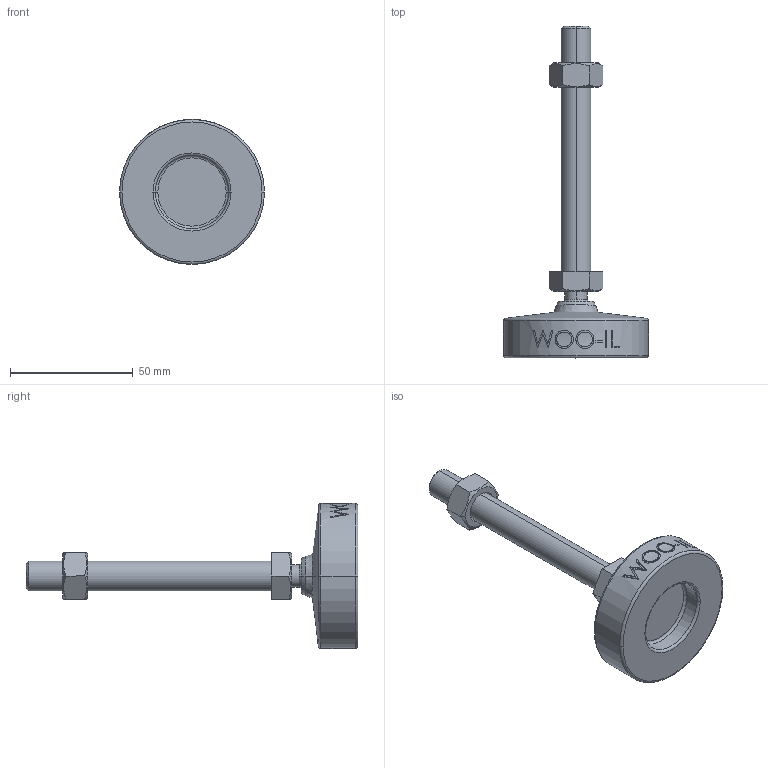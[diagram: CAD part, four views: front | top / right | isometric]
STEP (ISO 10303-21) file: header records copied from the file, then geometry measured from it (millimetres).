
FILE_DESCRIPTION (( 'STEP AP214' ), '1' );
FILE_NAME ('MFN59-M12-100.step', '2021-01-19T06:27:57', ( '' ), ( '' ), 'SwSTEP 2.0', 'SolidWorks 2019', '' );
FILE_SCHEMA (( 'AUTOMOTIVE_DESIGN' ));
Length unit declared in the file: millimetre
Products named in the file (2): MFN59-M12-100
Bounding box: 59 x 135 x 59 mm (x, y, z)
Volume: 58539.1 mm3; surface area: 15321.1 mm2
Topology: 2 solids, 2 shells, 109 faces, 253 edges, 160 vertices
Faces by surface type: plane 47, cone 18, cylinder 18, bspline 16, torus 8, sphere 2
Entity records: 4619 total; most frequent: CARTESIAN_POINT 2194, ORIENTED_EDGE 506, DIRECTION 461, EDGE_CURVE 253, AXIS2_PLACEMENT_3D 179, VERTEX_POINT 160, EDGE_LOOP 123, FACE_OUTER_BOUND 109
